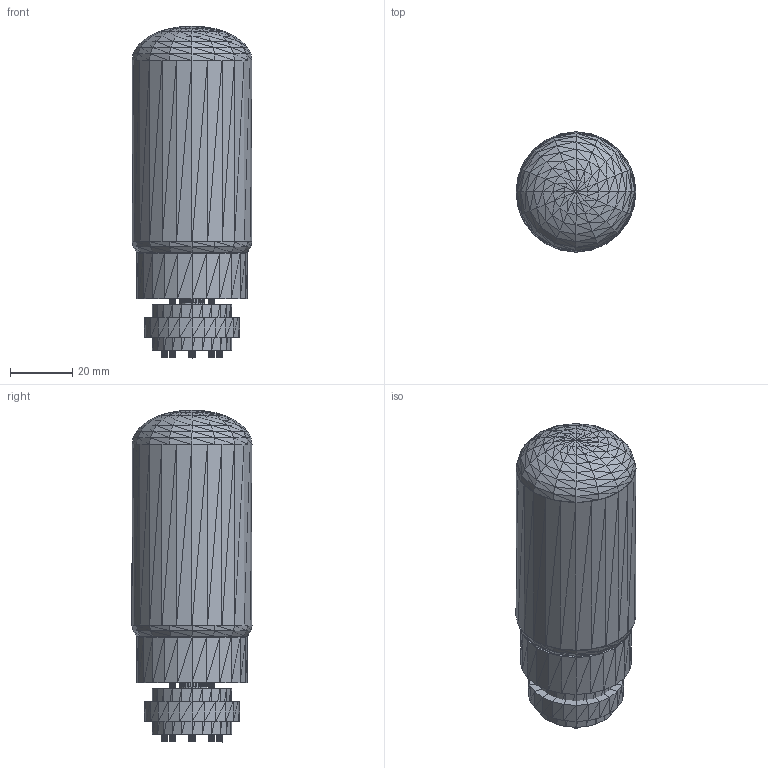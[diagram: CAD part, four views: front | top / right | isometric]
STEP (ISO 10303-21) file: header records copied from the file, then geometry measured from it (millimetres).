
FILE_DESCRIPTION(('HOOPS Exchange Step'),'2;1');
FILE_NAME('***.stp');
FILE_SCHEMA( ('AP242_MANAGED_MODEL_BASED_3D_ENGINEERING_MIM_LF {1 0 10303 442 1 1 4 }') );
Length unit declared in the file: inch
Products named in the file (23): OCT2DIOWSKT_2; OCT2DIOWSKT_4; OCT2DIOWSKT_6; OCT2DIOWSKT_8; OCT2DIOWSKT_10; OCT2DIOWSKT_11; OCT2DIOWSKT_14; OCT2DIOWSKT_16; OCT2DIOWSKT_18; OCT2DIOWSKT_19; OCT2DIOWSKT_21; OCT2DIOWSKT_23; OCT2DIOWSKT_25; OCT2DIOWSKT_27; OCT2DIOWSKT_28; OCT2DIOWSKT_29; OCT2DIOWSKT_30; OCT2DIOWSKT_32; OCT2DIOWSKT_33; OCT2DIOWSKT_34; OCT2DIOWSKT_35; OCT2DIOWSKT_36; OCT2DIOWSKT
Assembly tree (22 placements, depth 2):
  OCT2DIOWSKT
    OCT2DIOWSKT_2
    OCT2DIOWSKT_4
    OCT2DIOWSKT_6
    OCT2DIOWSKT_8
    OCT2DIOWSKT_10
    OCT2DIOWSKT_11
    OCT2DIOWSKT_14
    OCT2DIOWSKT_16
    OCT2DIOWSKT_18
    OCT2DIOWSKT_19
    OCT2DIOWSKT_21
    OCT2DIOWSKT_23
    OCT2DIOWSKT_25
    OCT2DIOWSKT_27
    OCT2DIOWSKT_28
    OCT2DIOWSKT_29
    OCT2DIOWSKT_30
    OCT2DIOWSKT_32
    OCT2DIOWSKT_33
    OCT2DIOWSKT_34
    OCT2DIOWSKT_35
    OCT2DIOWSKT_36
Bounding box: 38.45 x 38.46 x 106.39 mm (x, y, z)
Volume: 68190.8 mm3; surface area: 34198.1 mm2
Topology: 22 solids, 22 shells, 2464 faces, 3696 edges, 1274 vertices
Faces by surface type: plane 2464
Entity records: 49135 total; most frequent: DIRECTION 8716, CARTESIAN_POINT 7480, ORIENTED_EDGE 7392, VECTOR 3696, LINE 3696, EDGE_CURVE 3696, AXIS2_PLACEMENT_3D 2510, PLANE 2464
